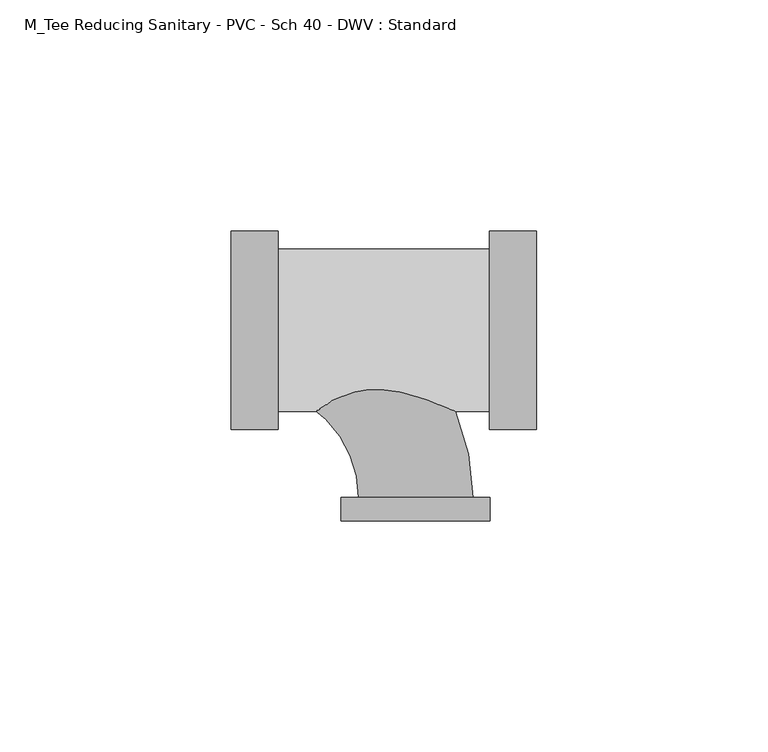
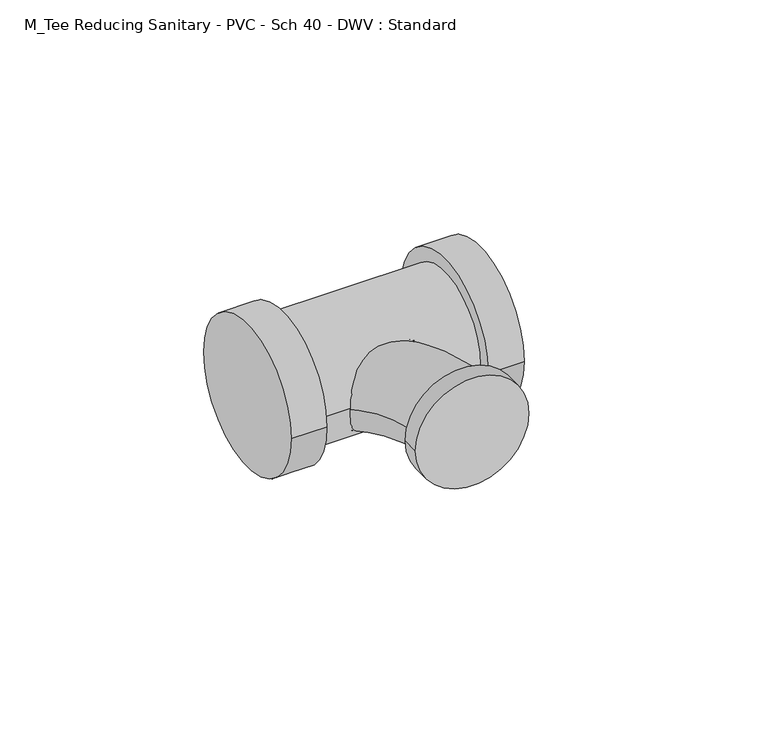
"""IFC4 building model written with IfcOpenShell, lengths in millimetres: pipe fitting geometry, M_Tee Reducing Sanitary - PVC - Sch 40 - DWV : Standard."""

from ifc_helpers import new_model, si_unit, point, frame, origin, place, context, project, spatial, circle_curve, ellipse_curve, trimmed, source, transform, mapped, element, save
from ifc_brep_helpers import plane_surface, cylinder_surface, revolved_surface, advanced_brep


def m_tee_reducing_sanitary_pvc_sch_40_dwv_standard_51b4b954(model_context):
    return source(origin(), model_context, "Body", "AdvancedBrep", [
        advanced_brep(
        [(16.001625, -21.4871094, 0.0), (16.001625, 21.4871094, 0.0), (16.001625, -17.5640625, 0.0), (16.001625, 17.5640625, 0.0), (26.1719375, -21.4871094, 0.0), (26.1719375, 21.4871094, 0.0), (-29.7804062, 17.5640625, 0.0), (-29.7804062, -17.5640625, 0.0), (-39.9507187, -21.4871094, 0.0), (-39.9507187, 21.4871094, 0.0), (-29.7804062, -21.4871094, 0.0), (-29.7804062, 21.4871094, 0.0)],
        [
            (0, 1, circle_curve(frame((16.001625, 0.0, 0.0), z_axis=(-1.0, 0.0, 0.0), x_axis=(0.0, 1.0, 0.0)), 21.4871094)),
            (1, 0, circle_curve(frame((16.001625, 0.0, 0.0), z_axis=(-1.0, 0.0, 0.0), x_axis=(0.0, 1.0, 0.0)), 21.4871094)),
            (2, 3, circle_curve(frame((16.001625, 0.0, 0.0), z_axis=(1.0, 0.0, 0.0), x_axis=(0.0, 0.0, -1.0)), 17.5640625)),
            (3, 2, circle_curve(frame((16.001625, 0.0, 0.0), z_axis=(1.0, 0.0, 0.0), x_axis=(0.0, 0.0, 1.0)), 17.5640625)),
            (4, 5, circle_curve(frame((26.1719375, 0.0, 0.0), z_axis=(1.0, 0.0, 0.0), x_axis=(0.0, 1.0, 0.0)), 21.4871094)),
            (5, 4, circle_curve(frame((26.1719375, 0.0, 0.0), z_axis=(1.0, 0.0, 0.0), x_axis=(0.0, 1.0, 0.0)), 21.4871094)),
            (0, 4),
            (5, 1),
            (6, 3),
            (2, 7),
            (7, 6, circle_curve(frame((-29.7804062, 0.0, 0.0), z_axis=(1.0, 0.0, 0.0), x_axis=(0.0, 0.0, -1.0)), 17.5640625)),
            (6, 7, circle_curve(frame((-29.7804062, 0.0, 0.0), z_axis=(1.0, 0.0, 0.0), x_axis=(0.0, 0.0, 1.0)), 17.5640625)),
            (8, 9, circle_curve(frame((-39.9507187, 0.0, 0.0), z_axis=(-1.0, 0.0, 0.0), x_axis=(0.0, 1.0, 0.0)), 21.4871094)),
            (9, 8, circle_curve(frame((-39.9507187, 0.0, 0.0), z_axis=(-1.0, 0.0, 0.0), x_axis=(0.0, 1.0, 0.0)), 21.4871094)),
            (10, 11, circle_curve(frame((-29.7804062, 0.0, 0.0), z_axis=(1.0, 0.0, 0.0), x_axis=(0.0, 1.0, 0.0)), 21.4871094)),
            (11, 10, circle_curve(frame((-29.7804062, 0.0, 0.0), z_axis=(1.0, 0.0, 0.0), x_axis=(0.0, 1.0, 0.0)), 21.4871094)),
            (8, 10),
            (11, 9),
        ],
        [
            plane_surface(frame((16.001625, 0.0, 0.0), z_axis=(-1.0, 0.0, 0.0), x_axis=(0.0, 0.0, 1.0))),
            plane_surface(frame((26.1719375, 0.0, 0.0), z_axis=(1.0, 0.0, 0.0), x_axis=(0.0, 0.0, 1.0))),
            cylinder_surface(frame((16.001625, 0.0, 0.0), z_axis=(-1.0, 0.0, 0.0), x_axis=(0.0, 1.0, 0.0)), 21.4871094),
            cylinder_surface(frame((-29.7804062, 0.0, 0.0), z_axis=(1.0, 0.0, 0.0), x_axis=(0.0, 0.0, -1.0)), 17.5640625),
            cylinder_surface(frame((-29.7804062, 0.0, 0.0), z_axis=(1.0, 0.0, 0.0), x_axis=(0.0, 0.0, 1.0)), 17.5640625),
            plane_surface(frame((-39.9507187, 0.0, 0.0), z_axis=(-1.0, 0.0, 0.0), x_axis=(0.0, 0.0, 1.0))),
            plane_surface(frame((-29.7804062, 0.0, 0.0), z_axis=(1.0, 0.0, 0.0), x_axis=(0.0, 0.0, 1.0))),
            cylinder_surface(frame((-39.9507187, 0.0, 0.0), z_axis=(-1.0, 0.0, 0.0), x_axis=(0.0, 1.0, 0.0)), 21.4871094),
        ],
        [
            (0, [[1, 2], [3, 4]]),
            (1, [[5, 6]]),
            (2, [[-1, 7, -6, 8]]),
            (2, [[-2, -8, -5, -7]]),
            (3, [[9, -3, 10, 11]]),
            (4, [[-9, 12, -10, -4]]),
            (5, [[13, 14]]),
            (6, [[15, 16], [-11, -12]]),
            (7, [[-13, 17, -16, 18]]),
            (7, [[-14, -18, -15, -17]]),
        ],
    ),
        advanced_brep(
        [(-16.0871094, -36.1976563, 0.0), (16.0871094, -36.1976563, 0.0), (12.3640625, -36.1976563, 0.0), (-12.3640625, -36.1976563, 0.0), (-16.0871094, -41.2679688, 0.0), (16.0871094, -41.2679688, 0.0), (-36.1976562, -12.3640625, 0.0), (-36.1976562, 12.3640625, 0.0)],
        [
            (0, 1, circle_curve(frame((0.0, -36.1976563, 0.0), z_axis=(0.0, 1.0, 0.0), x_axis=(1.0, 0.0, 0.0)), 16.0871094)),
            (1, 0, circle_curve(frame((0.0, -36.1976563, 0.0), z_axis=(0.0, 1.0, 0.0), x_axis=(1.0, 0.0, 0.0)), 16.0871094)),
            (2, 3, circle_curve(frame((0.0, -36.1976563, 0.0), z_axis=(0.0, -1.0, 0.0), x_axis=(1.0, 0.0, 0.0)), 12.3640625)),
            (3, 2, circle_curve(frame((0.0, -36.1976563, 0.0), z_axis=(0.0, -1.0, 0.0), x_axis=(1.0, 0.0, 0.0)), 12.3640625)),
            (4, 5, circle_curve(frame((0.0, -41.2679688, 0.0), z_axis=(0.0, -1.0, 0.0), x_axis=(1.0, 0.0, 0.0)), 16.0871094)),
            (5, 4, circle_curve(frame((0.0, -41.2679688, 0.0), z_axis=(0.0, -1.0, 0.0), x_axis=(1.0, 0.0, 0.0)), 16.0871094)),
            (0, 4),
            (5, 1),
            (6, 7, circle_curve(frame((-36.1976562, 0.0, 0.0), z_axis=(-1.0, 0.0, 0.0), x_axis=(0.0, 1.0, 0.0)), 12.3640625)),
            (7, 6, circle_curve(frame((-36.1976562, 0.0, 0.0), z_axis=(-1.0, 0.0, 0.0), x_axis=(0.0, 1.0, 0.0)), 12.3640625)),
            (6, 3, circle_curve(frame((-36.1976562, -36.1976563, 0.0), z_axis=(0.0, 0.0, -1.0), x_axis=(0.0, 1.0, 0.0)), 23.8335938)),
            (2, 7, circle_curve(frame((-36.1976562, -36.1976563, 0.0), z_axis=(0.0, 0.0, 1.0), x_axis=(0.0, 1.0, 0.0)), 48.5617188)),
        ],
        [
            plane_surface(frame((0.0, -36.1976563, 0.0), z_axis=(0.0, 1.0, 0.0), x_axis=(0.0, 0.0, 1.0))),
            plane_surface(frame((0.0, -41.2679688, 0.0), z_axis=(0.0, -1.0, 0.0), x_axis=(0.0, 0.0, 1.0))),
            cylinder_surface(frame((0.0, -36.1976563, 0.0), z_axis=(0.0, 1.0, 0.0), x_axis=(1.0, 0.0, 0.0)), 16.0871094),
            plane_surface(frame((-36.1976562, 0.0, 0.0), z_axis=(-1.0, 0.0, 0.0), x_axis=(0.0, 0.0, 1.0))),
            revolved_surface(trimmed(ellipse_curve(frame((-36.1976562, 0.0, 0.0), z_axis=(-1.0, 0.0, 0.0), x_axis=(0.0, 1.0, 0.0)), 12.3640625, 12.3640625), [point((-36.1976562, -12.3640625, 0.0))], [point((-36.1976562, 12.3640625, 0.0))], True, "CARTESIAN"), (-36.1976562, -36.1976563, 0.0), (0.0, 0.0, -1.0)),
            revolved_surface(trimmed(ellipse_curve(frame((-36.1976562, 0.0, 0.0), z_axis=(-1.0, 0.0, 0.0), x_axis=(0.0, 1.0, 0.0)), 12.3640625, 12.3640625), [point((-36.1976562, 12.3640625, 0.0))], [point((-36.1976562, -12.3640625, 0.0))], True, "CARTESIAN"), (-36.1976562, -36.1976563, 0.0), (0.0, 0.0, -1.0)),
        ],
        [
            (0, [[1, 2], [3, 4]]),
            (1, [[5, 6]]),
            (2, [[-1, 7, -6, 8]]),
            (2, [[-2, -8, -5, -7]]),
            (3, [[9, 10]]),
            (4, [[-9, 11, -3, 12]]),
            (5, [[-10, -12, -4, -11]]),
        ],
    ),
    ])


if __name__ == "__main__":
    model = new_model("IFC4")
    model_context = context("Model", 3, world=origin())
    ifc_project = project(units=[si_unit("LENGTHUNIT", "METRE", prefix="MILLI")], contexts=[model_context])
    site = spatial("IfcSite", under=ifc_project)
    building = spatial("IfcBuilding", under=site)
    placement = place(None, origin())
    m_tee_reducing_sanitary_pvc_sch_40_dwv_standard_shape = m_tee_reducing_sanitary_pvc_sch_40_dwv_standard_51b4b954(model_context)
    element("IfcPipeFitting", 1, ObjectType="M_Tee Reducing Sanitary - PVC - Sch 40 - DWV : Standard", at=placement, inside=building, context=model_context, shape_type="MappedRepresentation", body=[
        mapped(m_tee_reducing_sanitary_pvc_sch_40_dwv_standard_shape, transform((0.0, 0.0, 0.0), x_axis=(1.0, 0.0, 0.0), y_axis=(0.0, 1.0, 0.0), z_axis=(0.0, 0.0, 1.0))),
    ])
    save(model, "model.ifc")
